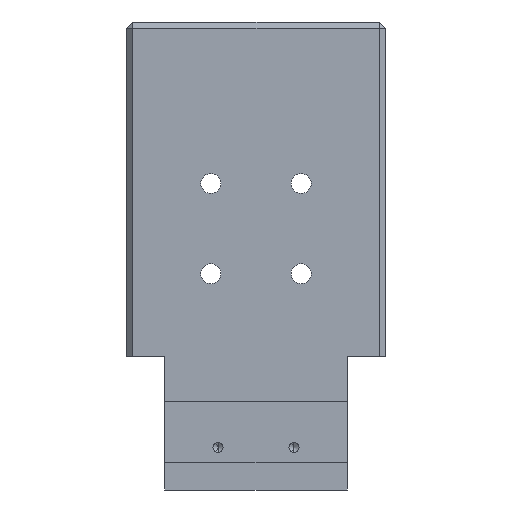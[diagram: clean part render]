
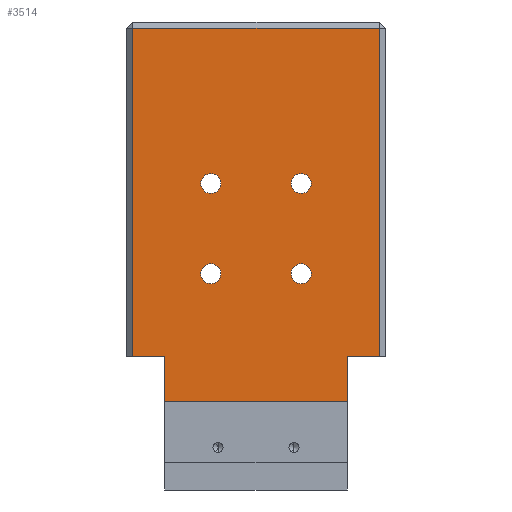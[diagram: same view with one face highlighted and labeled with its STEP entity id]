
A CAD part, front view. The second image highlights one B-rep face of the part: STEP entity #3514.
In plain terms, the highlighted planar face has unit normal (0, -1, 0).
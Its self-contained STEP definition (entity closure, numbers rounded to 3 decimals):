
#19 = CIRCLE ( 'NONE', #1236, 3.3 ) ;
#74 = DIRECTION ( 'NONE',  ( 0., 0., -1. ) ) ;
#91 = LINE ( 'NONE', #109, #650 ) ;
#107 = DIRECTION ( 'NONE',  ( 0., 0., -1. ) ) ;
#109 = CARTESIAN_POINT ( 'NONE',  ( -40.5, 13.5, 60. ) ) ;
#118 = EDGE_CURVE ( 'NONE', #1910, #2752, #1366, .T. ) ;
#121 = EDGE_CURVE ( 'NONE', #1910, #2551, #1641, .T. ) ;
#138 = ORIENTED_EDGE ( 'NONE', *, *, #2184, .T. ) ;
#180 = CARTESIAN_POINT ( 'NONE',  ( -30., 13.5, -65. ) ) ;
#187 = DIRECTION ( 'NONE',  ( -1., 0., 0. ) ) ;
#220 = CIRCLE ( 'NONE', #2364, 3.3 ) ;
#239 = EDGE_CURVE ( 'NONE', #1209, #2158, #1226, .T. ) ;
#240 = ORIENTED_EDGE ( 'NONE', *, *, #239, .F. ) ;
#268 = CIRCLE ( 'NONE', #759, 3.3 ) ;
#274 = FACE_BOUND ( 'NONE', #1824, .T. ) ;
#279 = ORIENTED_EDGE ( 'NONE', *, *, #3138, .F. ) ;
#285 = ORIENTED_EDGE ( 'NONE', *, *, #2811, .F. ) ;
#301 = VERTEX_POINT ( 'NONE', #2004 ) ;
#389 = DIRECTION ( 'NONE',  ( 1., 0., 0. ) ) ;
#414 = DIRECTION ( 'NONE',  ( 0., -1., 0. ) ) ;
#422 = ORIENTED_EDGE ( 'NONE', *, *, #1691, .F. ) ;
#425 = LINE ( 'NONE', #2975, #2092 ) ;
#457 = EDGE_CURVE ( 'NONE', #2207, #3242, #993, .T. ) ;
#541 = ORIENTED_EDGE ( 'NONE', *, *, #3730, .F. ) ;
#553 = ORIENTED_EDGE ( 'NONE', *, *, #856, .F. ) ;
#557 = DIRECTION ( 'NONE',  ( 0., 0., 1. ) ) ;
#581 = FACE_BOUND ( 'NONE', #1138, .T. ) ;
#587 = EDGE_LOOP ( 'NONE', ( #422, #279 ) ) ;
#640 = VECTOR ( 'NONE', #187, 1000. ) ;
#648 = CARTESIAN_POINT ( 'NONE',  ( -14.849, 13.5, 3.549 ) ) ;
#650 = VECTOR ( 'NONE', #74, 1000. ) ;
#671 = CARTESIAN_POINT ( 'NONE',  ( -14.849, 13.5, -26.149 ) ) ;
#680 = CARTESIAN_POINT ( 'NONE',  ( 40.5, 13.5, 58. ) ) ;
#710 = AXIS2_PLACEMENT_3D ( 'NONE', #1678, #3780, #1696 ) ;
#717 = ORIENTED_EDGE ( 'NONE', *, *, #1040, .T. ) ;
#759 = AXIS2_PLACEMENT_3D ( 'NONE', #2154, #2446, #1000 ) ;
#784 = DIRECTION ( 'NONE',  ( 0., -1., 0. ) ) ;
#815 = VERTEX_POINT ( 'NONE', #648 ) ;
#856 = EDGE_CURVE ( 'NONE', #3242, #2207, #3258, .T. ) ;
#920 = EDGE_CURVE ( 'NONE', #3115, #3190, #2502, .T. ) ;
#989 = ORIENTED_EDGE ( 'NONE', *, *, #1773, .T. ) ;
#993 = CIRCLE ( 'NONE', #1404, 3.3 ) ;
#1000 = DIRECTION ( 'NONE',  ( 0., 0., -1. ) ) ;
#1035 = CARTESIAN_POINT ( 'NONE',  ( -42.5, 13.5, -50. ) ) ;
#1040 = EDGE_CURVE ( 'NONE', #1093, #2551, #1137, .T. ) ;
#1066 = EDGE_CURVE ( 'NONE', #3779, #3323, #2554, .T. ) ;
#1075 = CARTESIAN_POINT ( 'NONE',  ( 14.849, 13.5, -19.549 ) ) ;
#1093 = VERTEX_POINT ( 'NONE', #3023 ) ;
#1096 = FACE_BOUND ( 'NONE', #587, .T. ) ;
#1114 = CARTESIAN_POINT ( 'NONE',  ( 40.5, 13.5, 60. ) ) ;
#1137 = LINE ( 'NONE', #2298, #1661 ) ;
#1138 = EDGE_LOOP ( 'NONE', ( #285, #2377 ) ) ;
#1139 = DIRECTION ( 'NONE',  ( 0., 0., -1. ) ) ;
#1143 = CARTESIAN_POINT ( 'NONE',  ( -14.849, 13.5, 10.149 ) ) ;
#1162 = CARTESIAN_POINT ( 'NONE',  ( 14.849, 13.5, 3.549 ) ) ;
#1200 = ORIENTED_EDGE ( 'NONE', *, *, #1066, .T. ) ;
#1209 = VERTEX_POINT ( 'NONE', #671 ) ;
#1226 = CIRCLE ( 'NONE', #2451, 3.3 ) ;
#1236 = AXIS2_PLACEMENT_3D ( 'NONE', #3014, #414, #1521 ) ;
#1300 = EDGE_LOOP ( 'NONE', ( #541, #240 ) ) ;
#1306 = CIRCLE ( 'NONE', #710, 3.3 ) ;
#1366 = LINE ( 'NONE', #2530, #2389 ) ;
#1386 = LINE ( 'NONE', #3732, #640 ) ;
#1404 = AXIS2_PLACEMENT_3D ( 'NONE', #3311, #2730, #107 ) ;
#1437 = CARTESIAN_POINT ( 'NONE',  ( 14.849, 13.5, 10.149 ) ) ;
#1461 = DIRECTION ( 'NONE',  ( 0., 0., -1. ) ) ;
#1521 = DIRECTION ( 'NONE',  ( 0., 0., -1. ) ) ;
#1580 = AXIS2_PLACEMENT_3D ( 'NONE', #2280, #3165, #1139 ) ;
#1595 = DIRECTION ( 'NONE',  ( 0., 0., -1. ) ) ;
#1599 = AXIS2_PLACEMENT_3D ( 'NONE', #2185, #784, #1955 ) ;
#1616 = CARTESIAN_POINT ( 'NONE',  ( 40.5, 13.5, -50. ) ) ;
#1641 = LINE ( 'NONE', #180, #2139 ) ;
#1661 = VECTOR ( 'NONE', #3737, 1000. ) ;
#1664 = DIRECTION ( 'NONE',  ( 0., 0., 1. ) ) ;
#1678 = CARTESIAN_POINT ( 'NONE',  ( -14.849, 13.5, 6.849 ) ) ;
#1682 = DIRECTION ( 'NONE',  ( -1., 0., 0. ) ) ;
#1691 = EDGE_CURVE ( 'NONE', #3085, #815, #19, .T. ) ;
#1696 = DIRECTION ( 'NONE',  ( 0., 0., -1. ) ) ;
#1773 = EDGE_CURVE ( 'NONE', #2752, #3779, #425, .T. ) ;
#1824 = EDGE_LOOP ( 'NONE', ( #2737, #553 ) ) ;
#1910 = VERTEX_POINT ( 'NONE', #2183 ) ;
#1929 = DIRECTION ( 'NONE',  ( 1., 0., 0. ) ) ;
#1955 = DIRECTION ( 'NONE',  ( 0., 0., -1. ) ) ;
#2004 = CARTESIAN_POINT ( 'NONE',  ( -40.5, 13.5, -50. ) ) ;
#2065 = CARTESIAN_POINT ( 'NONE',  ( 30., 13.5, -50. ) ) ;
#2092 = VECTOR ( 'NONE', #389, 1000. ) ;
#2129 = VERTEX_POINT ( 'NONE', #3170 ) ;
#2139 = VECTOR ( 'NONE', #1682, 1000. ) ;
#2144 = VECTOR ( 'NONE', #557, 1000. ) ;
#2154 = CARTESIAN_POINT ( 'NONE',  ( 14.849, 13.5, 6.849 ) ) ;
#2158 = VERTEX_POINT ( 'NONE', #3666 ) ;
#2167 = VECTOR ( 'NONE', #1929, 1000. ) ;
#2183 = CARTESIAN_POINT ( 'NONE',  ( 30., 13.5, -65. ) ) ;
#2184 = EDGE_CURVE ( 'NONE', #3323, #2129, #1386, .T. ) ;
#2185 = CARTESIAN_POINT ( 'NONE',  ( 14.849, 13.5, -22.849 ) ) ;
#2207 = VERTEX_POINT ( 'NONE', #1075 ) ;
#2223 = ORIENTED_EDGE ( 'NONE', *, *, #2998, .T. ) ;
#2235 = CARTESIAN_POINT ( 'NONE',  ( 14.849, 13.5, 6.849 ) ) ;
#2280 = CARTESIAN_POINT ( 'NONE',  ( 42.5, 13.5, 60. ) ) ;
#2287 = DIRECTION ( 'NONE',  ( 0., -1., 0. ) ) ;
#2298 = CARTESIAN_POINT ( 'NONE',  ( -30., 13.5, -50. ) ) ;
#2364 = AXIS2_PLACEMENT_3D ( 'NONE', #3028, #3420, #1595 ) ;
#2377 = ORIENTED_EDGE ( 'NONE', *, *, #920, .F. ) ;
#2389 = VECTOR ( 'NONE', #1664, 1000. ) ;
#2446 = DIRECTION ( 'NONE',  ( 0., -1., 0. ) ) ;
#2451 = AXIS2_PLACEMENT_3D ( 'NONE', #3783, #2287, #1461 ) ;
#2502 = CIRCLE ( 'NONE', #3321, 3.3 ) ;
#2518 = DIRECTION ( 'NONE',  ( 0., 0., -1. ) ) ;
#2526 = ORIENTED_EDGE ( 'NONE', *, *, #2842, .T. ) ;
#2530 = CARTESIAN_POINT ( 'NONE',  ( 30., 13.5, -94. ) ) ;
#2551 = VERTEX_POINT ( 'NONE', #3388 ) ;
#2554 = LINE ( 'NONE', #1114, #2144 ) ;
#2730 = DIRECTION ( 'NONE',  ( 0., -1., 0. ) ) ;
#2737 = ORIENTED_EDGE ( 'NONE', *, *, #457, .F. ) ;
#2752 = VERTEX_POINT ( 'NONE', #2065 ) ;
#2779 = DIRECTION ( 'NONE',  ( 0., -1., 0. ) ) ;
#2811 = EDGE_CURVE ( 'NONE', #3190, #3115, #268, .T. ) ;
#2837 = FACE_OUTER_BOUND ( 'NONE', #3625, .T. ) ;
#2842 = EDGE_CURVE ( 'NONE', #2129, #301, #91, .T. ) ;
#2975 = CARTESIAN_POINT ( 'NONE',  ( 30., 13.5, -50. ) ) ;
#2977 = CARTESIAN_POINT ( 'NONE',  ( 14.849, 13.5, -26.149 ) ) ;
#2998 = EDGE_CURVE ( 'NONE', #301, #1093, #3383, .T. ) ;
#3014 = CARTESIAN_POINT ( 'NONE',  ( -14.849, 13.5, 6.849 ) ) ;
#3023 = CARTESIAN_POINT ( 'NONE',  ( -30., 13.5, -50. ) ) ;
#3028 = CARTESIAN_POINT ( 'NONE',  ( -14.849, 13.5, -22.849 ) ) ;
#3085 = VERTEX_POINT ( 'NONE', #1143 ) ;
#3115 = VERTEX_POINT ( 'NONE', #1162 ) ;
#3138 = EDGE_CURVE ( 'NONE', #815, #3085, #1306, .T. ) ;
#3165 = DIRECTION ( 'NONE',  ( 0., -1., 0. ) ) ;
#3170 = CARTESIAN_POINT ( 'NONE',  ( -40.5, 13.5, 58. ) ) ;
#3190 = VERTEX_POINT ( 'NONE', #1437 ) ;
#3242 = VERTEX_POINT ( 'NONE', #2977 ) ;
#3258 = CIRCLE ( 'NONE', #1599, 3.3 ) ;
#3311 = CARTESIAN_POINT ( 'NONE',  ( 14.849, 13.5, -22.849 ) ) ;
#3321 = AXIS2_PLACEMENT_3D ( 'NONE', #2235, #2779, #2518 ) ;
#3323 = VERTEX_POINT ( 'NONE', #680 ) ;
#3383 = LINE ( 'NONE', #1035, #2167 ) ;
#3388 = CARTESIAN_POINT ( 'NONE',  ( -30., 13.5, -65. ) ) ;
#3420 = DIRECTION ( 'NONE',  ( 0., -1., 0. ) ) ;
#3452 = FACE_BOUND ( 'NONE', #1300, .T. ) ;
#3488 = PLANE ( 'NONE',  #1580 ) ;
#3514 = ADVANCED_FACE ( 'NONE', ( #3452, #1096, #581, #274, #2837 ), #3488, .T. ) ;
#3625 = EDGE_LOOP ( 'NONE', ( #989, #1200, #138, #2526, #2223, #717, #3776, #3662 ) ) ;
#3662 = ORIENTED_EDGE ( 'NONE', *, *, #118, .T. ) ;
#3666 = CARTESIAN_POINT ( 'NONE',  ( -14.849, 13.5, -19.549 ) ) ;
#3730 = EDGE_CURVE ( 'NONE', #2158, #1209, #220, .T. ) ;
#3732 = CARTESIAN_POINT ( 'NONE',  ( -42.5, 13.5, 58. ) ) ;
#3737 = DIRECTION ( 'NONE',  ( 0., 0., -1. ) ) ;
#3776 = ORIENTED_EDGE ( 'NONE', *, *, #121, .F. ) ;
#3779 = VERTEX_POINT ( 'NONE', #1616 ) ;
#3780 = DIRECTION ( 'NONE',  ( 0., -1., 0. ) ) ;
#3783 = CARTESIAN_POINT ( 'NONE',  ( -14.849, 13.5, -22.849 ) ) ;
